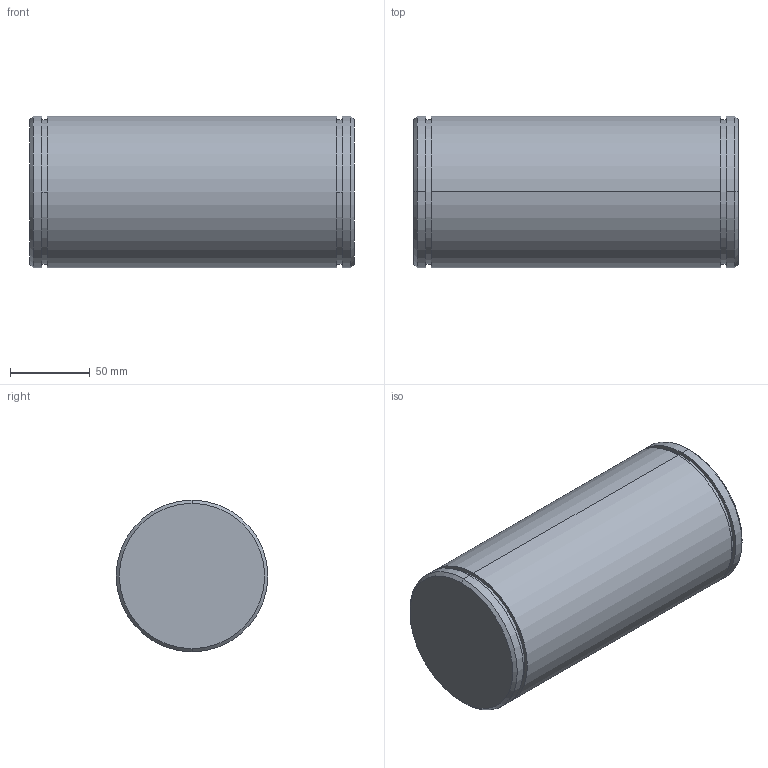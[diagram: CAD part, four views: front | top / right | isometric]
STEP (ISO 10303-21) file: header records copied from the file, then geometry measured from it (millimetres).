
FILE_DESCRIPTION (( 'STEP AP203' ), '1' );
FILE_NAME ('Bolzen Sicherungsring B M90.STEP', '2018-02-22T05:43:19', ( 'install' ), ( 'Hewlett-Packard Company' ), 'SwSTEP 2.0', 'SolidWorks 2017', '' );
FILE_SCHEMA (( 'CONFIG_CONTROL_DESIGN' ));
Length unit declared in the file: millimetre
Products named in the file (1): Bolzen Sicherungsring B M90
Bounding box: 203 x 95 x 95 mm (x, y, z)
Volume: 1433176.5 mm3; surface area: 76633.3 mm2
Topology: 1 solids, 1 shells, 20 faces, 38 edges, 24 vertices
Faces by surface type: cylinder 10, plane 6, cone 4
Entity records: 591 total; most frequent: DIRECTION 104, CARTESIAN_POINT 83, ORIENTED_EDGE 76, AXIS2_PLACEMENT_3D 45, EDGE_CURVE 38, VERTEX_POINT 24, EDGE_LOOP 24, CIRCLE 24
